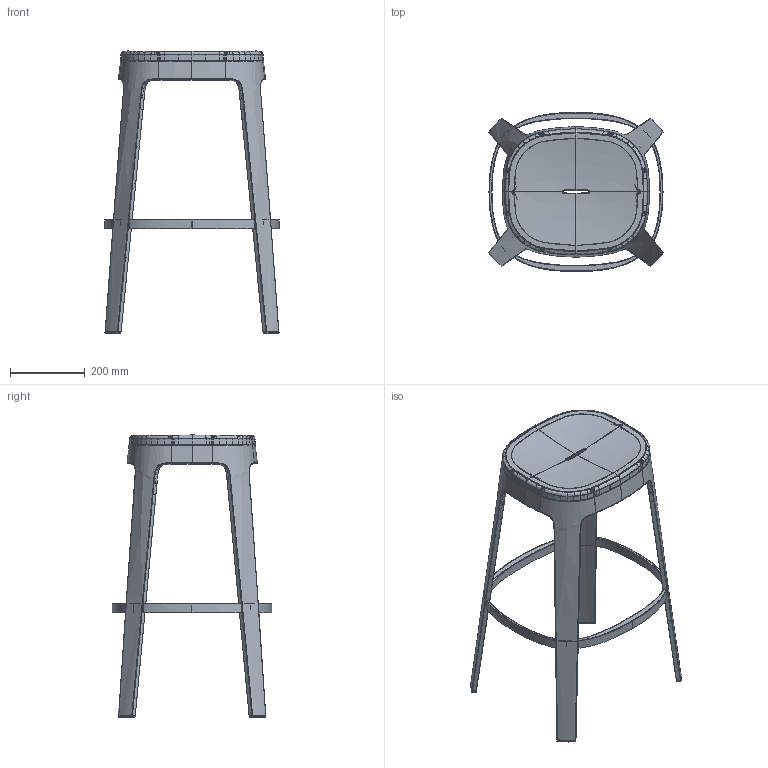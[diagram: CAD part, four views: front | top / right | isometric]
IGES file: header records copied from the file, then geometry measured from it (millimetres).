
Start section: START RECORD GO HERE.
Global section: file name: ombra_stool_75h.igs; native system: DASSAULT SYSTEMES CATIA Version 5-6 Release 2017 - www.3ds.com; preprocessor: V5-6R2017_5.27.0.0.10-19-2016.20.00; author: RAFA; organization: RAFA-PC; date: 20181017.172044; units: millimetre
Bounding box: 465.79 x 426 x 755.89 mm (x, y, z)
Surface area: 1211893.6 mm2 (no closed solid volume)
Topology: 0 solids, 0 shells, 1350 faces, 5957 edges, 5948 vertices
Faces by surface type: bspline 1334, plane 16
